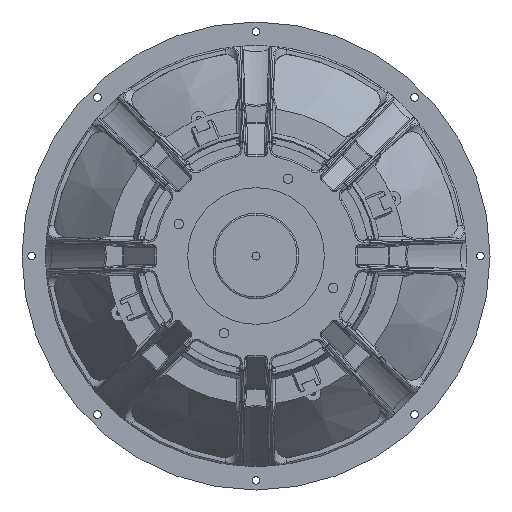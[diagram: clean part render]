
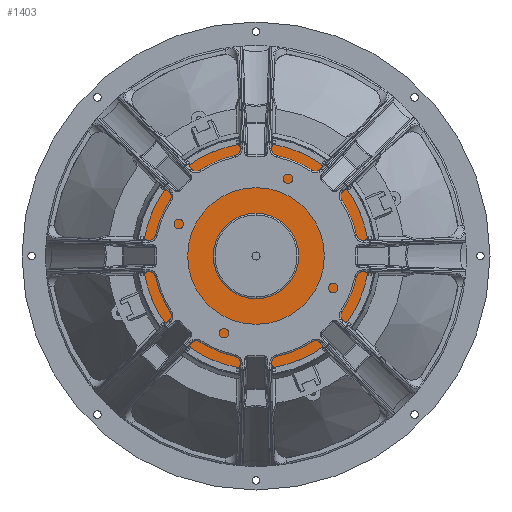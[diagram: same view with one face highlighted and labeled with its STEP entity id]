
A CAD part, front view. The second image highlights one B-rep face of the part: STEP entity #1403.
In plain terms, the highlighted planar face has unit normal (0, -1, 0).
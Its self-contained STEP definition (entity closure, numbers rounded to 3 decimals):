
#861 = ORIENTED_EDGE ( 'NONE', *, *, #59660, .T. ) ;
#1403 = ADVANCED_FACE ( 'NONE', ( #48702, #18309 ), #54893, .T. ) ;
#4779 = VERTEX_POINT ( 'NONE', #24245 ) ;
#7236 = CARTESIAN_POINT ( 'NONE',  ( 0., 14.701, -74.54 ) ) ;
#8163 = CARTESIAN_POINT ( 'NONE',  ( 0., 14.701, 0. ) ) ;
#12375 = CARTESIAN_POINT ( 'NONE',  ( 0., 14.701, 28.119 ) ) ;
#13245 = CIRCLE ( 'NONE', #47690, 28.119 ) ;
#17400 = DIRECTION ( 'NONE',  ( 1., 0., 0. ) ) ;
#18309 = FACE_OUTER_BOUND ( 'NONE', #36581, .T. ) ;
#19107 = CIRCLE ( 'NONE', #48609, 28.119 ) ;
#19226 = CARTESIAN_POINT ( 'NONE',  ( 0., 14.701, 0. ) ) ;
#22817 = AXIS2_PLACEMENT_3D ( 'NONE', #8163, #55132, #56248 ) ;
#23137 = CARTESIAN_POINT ( 'NONE',  ( 0., 14.701, 0. ) ) ;
#24245 = CARTESIAN_POINT ( 'NONE',  ( 0., 14.701, 74.54 ) ) ;
#24927 = DIRECTION ( 'NONE',  ( 1., 0., 0. ) ) ;
#27302 = DIRECTION ( 'NONE',  ( 0., -1., 0. ) ) ;
#35710 = EDGE_CURVE ( 'NONE', #46907, #36422, #19107, .T. ) ;
#36422 = VERTEX_POINT ( 'NONE', #40121 ) ;
#36581 = EDGE_LOOP ( 'NONE', ( #47899, #861 ) ) ;
#40121 = CARTESIAN_POINT ( 'NONE',  ( 0., 14.701, -28.119 ) ) ;
#41755 = CARTESIAN_POINT ( 'NONE',  ( 0., 14.701, 0. ) ) ;
#45066 = CARTESIAN_POINT ( 'NONE',  ( 0., 14.701, 0. ) ) ;
#46650 = DIRECTION ( 'NONE',  ( 0., -1., 0. ) ) ;
#46907 = VERTEX_POINT ( 'NONE', #12375 ) ;
#47547 = DIRECTION ( 'NONE',  ( 1., 0., 0. ) ) ;
#47687 = DIRECTION ( 'NONE',  ( 0., -1., 0. ) ) ;
#47690 = AXIS2_PLACEMENT_3D ( 'NONE', #23137, #46650, #17400 ) ;
#47899 = ORIENTED_EDGE ( 'NONE', *, *, #58568, .T. ) ;
#48609 = AXIS2_PLACEMENT_3D ( 'NONE', #45066, #27302, #69021 ) ;
#48702 = FACE_BOUND ( 'NONE', #62205, .T. ) ;
#54893 = PLANE ( 'NONE',  #74747 ) ;
#55132 = DIRECTION ( 'NONE',  ( 0., -1., 0. ) ) ;
#56248 = DIRECTION ( 'NONE',  ( 1., 0., 0. ) ) ;
#56253 = AXIS2_PLACEMENT_3D ( 'NONE', #19226, #47687, #24927 ) ;
#58568 = EDGE_CURVE ( 'NONE', #4779, #60717, #67198, .T. ) ;
#59173 = DIRECTION ( 'NONE',  ( 0., -1., 0. ) ) ;
#59660 = EDGE_CURVE ( 'NONE', #60717, #4779, #62458, .T. ) ;
#60288 = EDGE_CURVE ( 'NONE', #36422, #46907, #13245, .T. ) ;
#60717 = VERTEX_POINT ( 'NONE', #7236 ) ;
#62205 = EDGE_LOOP ( 'NONE', ( #63731, #62933 ) ) ;
#62458 = CIRCLE ( 'NONE', #56253, 74.54 ) ;
#62933 = ORIENTED_EDGE ( 'NONE', *, *, #35710, .F. ) ;
#63731 = ORIENTED_EDGE ( 'NONE', *, *, #60288, .F. ) ;
#67198 = CIRCLE ( 'NONE', #22817, 74.54 ) ;
#69021 = DIRECTION ( 'NONE',  ( 1., 0., 0. ) ) ;
#74747 = AXIS2_PLACEMENT_3D ( 'NONE', #41755, #59173, #47547 ) ;
